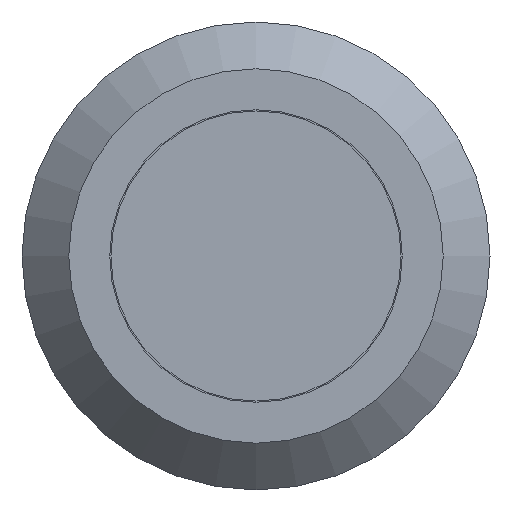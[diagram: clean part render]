
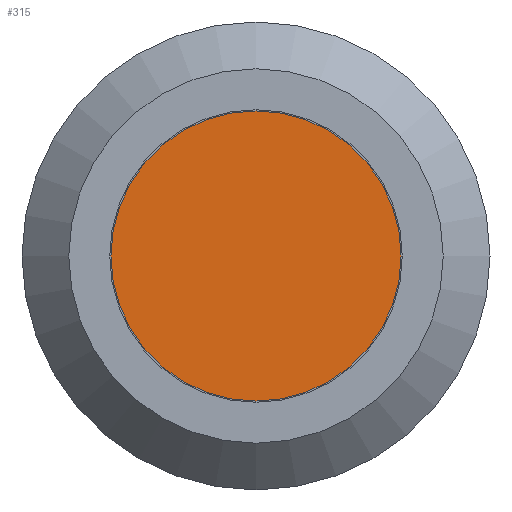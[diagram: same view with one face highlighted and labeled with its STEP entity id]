
A CAD part, front view. The second image highlights one B-rep face of the part: STEP entity #315.
In plain terms, the highlighted planar face has unit normal (0, -1, 0).
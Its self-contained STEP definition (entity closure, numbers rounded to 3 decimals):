
#96=ORIENTED_EDGE('',*,*,#164,.T.);
#164=EDGE_CURVE('',#202,#202,#223,.T.);
#202=VERTEX_POINT('',#512);
#223=CIRCLE('',#357,2.48);
#246=EDGE_LOOP('',(#96));
#276=FACE_BOUND('',#246,.T.);
#294=PLANE('',#358);
#315=ADVANCED_FACE('',(#276),#294,.F.);
#357=AXIS2_PLACEMENT_3D('',#511,#416,#417);
#358=AXIS2_PLACEMENT_3D('',#513,#418,#419);
#416=DIRECTION('',(0.,-1.,0.));
#417=DIRECTION('',(1.,0.,0.));
#418=DIRECTION('',(0.,1.,0.));
#419=DIRECTION('',(-1.,0.,0.));
#511=CARTESIAN_POINT('',(0.,0.,0.));
#512=CARTESIAN_POINT('',(2.48,0.,0.));
#513=CARTESIAN_POINT('',(2.48,0.,0.));
